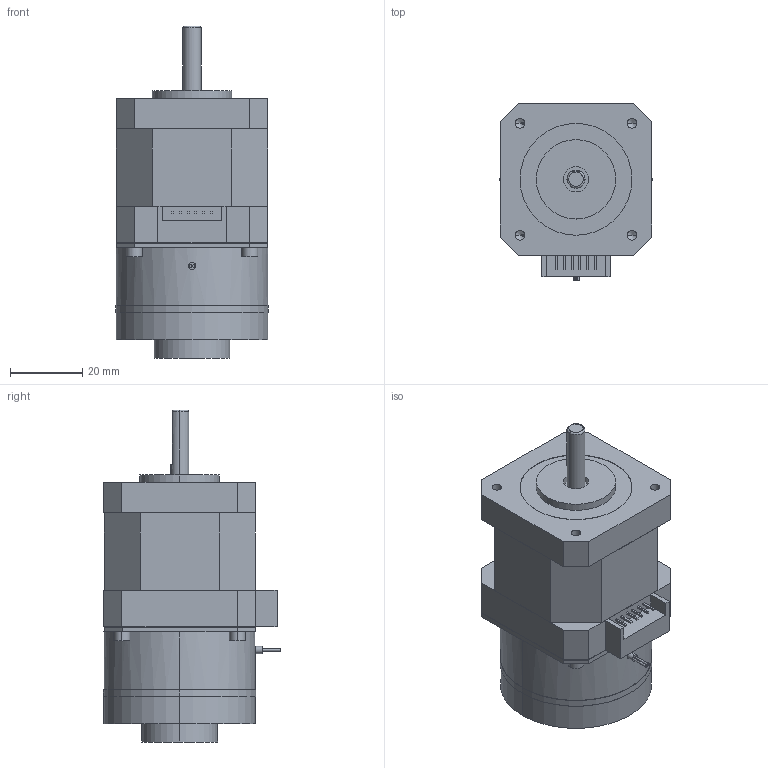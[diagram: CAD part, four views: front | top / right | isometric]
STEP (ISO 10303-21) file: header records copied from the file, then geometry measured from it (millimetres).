
FILE_DESCRIPTION (( 'STEP AP203' ), '1' );
FILE_NAME ('UB42D24-D17-440.STEP', '2019-11-16T02:14:27', ( 'China' ), ( 'Home' ), 'SwSTEP 2.0', 'SolidWorks 2016', '' );
FILE_SCHEMA (( 'CONFIG_CONTROL_DESIGN' ));
Length unit declared in the file: millimetre
Products named in the file (1): UB42D24-D17-440
Bounding box: 42.2 x 49.05 x 92 mm (x, y, z)
Volume: 105964.8 mm3; surface area: 21205.3 mm2
Topology: 2 solids, 6 shells, 276 faces, 698 edges, 455 vertices
Faces by surface type: plane 211, cylinder 54, cone 8, bspline 3
Entity records: 8318 total; most frequent: CARTESIAN_POINT 1530, ORIENTED_EDGE 1380, DIRECTION 1357, EDGE_CURVE 690, LINE 557, VECTOR 557, VERTEX_POINT 455, AXIS2_PLACEMENT_3D 400
